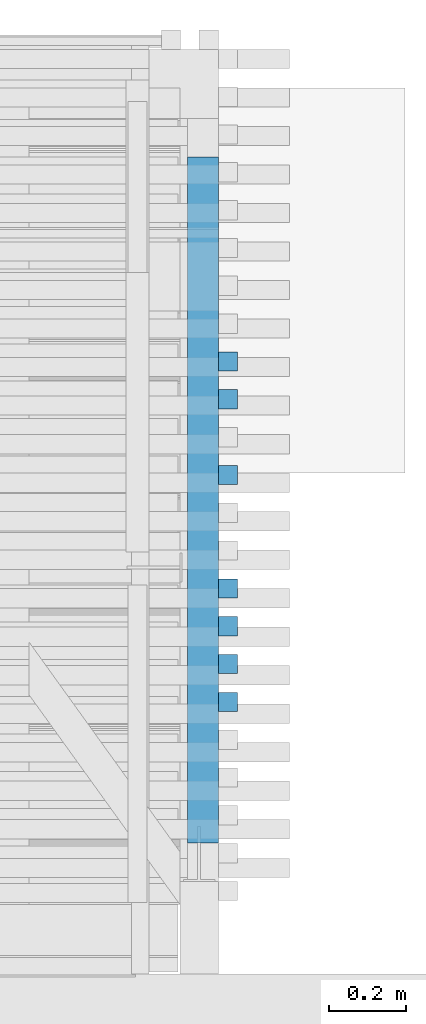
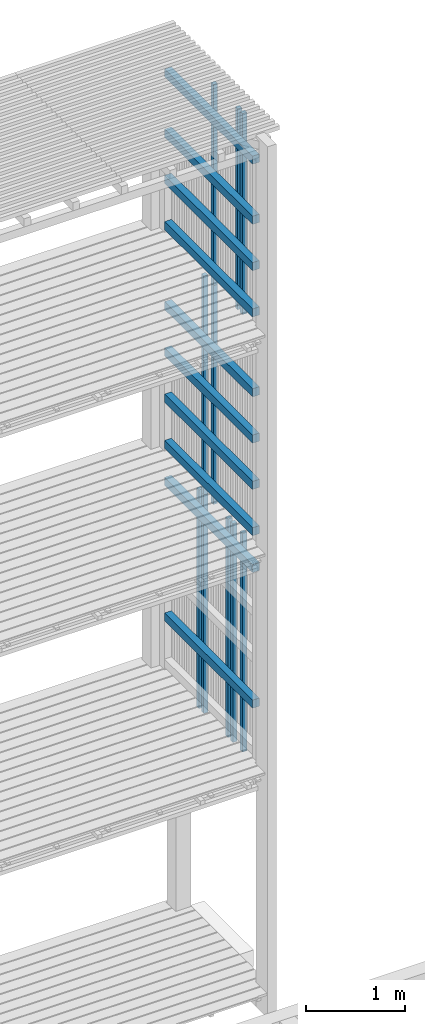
# One storey, part 130 of 182: 20 beams.
"""IFC2X3 building model written with IfcOpenShell, lengths in metres."""

from ifc_helpers import new_model, si_unit, frame, origin, place, context, project, spatial, faceted_brep, element, save


model = new_model("IFC2X3")

# Units and contexts
model_context = context("Model", 3, precision=1e-06, world=origin())
ifc_project = project(units=[si_unit("LENGTHUNIT", "METRE"), si_unit("PLANEANGLEUNIT", "RADIAN")], contexts=[model_context])

# Site, building, storey
site = spatial("IfcSite", under=ifc_project, CompositionType="ELEMENT")
building = spatial("IfcBuilding", under=site, CompositionType="ELEMENT")
storey = spatial("IfcBuildingStorey", under=building, Name="vs", CompositionType="ELEMENT", Elevation=-0.85)

# Beams
placement = place(None, origin())
beam_1_placement = place(placement, frame((56.314999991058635, 5.210077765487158, 6.101249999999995), z_axis=(0.0, 0.0, 1.0), x_axis=(0.0, 1.0, 0.0)))
element("IfcBeam", 1, at=beam_1_placement, inside=storey, Name="Support bardage", context=model_context, shape_type="Brep", body=[
    faceted_brep([(1.779999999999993, -0.039999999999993, 0.050000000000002), (1.779999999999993, -0.039999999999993, -0.05), (1.779999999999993, 0.04000000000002, -0.05), (1.779999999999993, 0.04000000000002, 0.050000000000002), (-4e-15, -0.039999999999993, -0.05), (1.779999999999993, -0.039999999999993, -0.05), (1.779999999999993, -0.039999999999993, 0.050000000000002), (-4e-15, -0.039999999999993, 0.050000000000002), (-4e-15, 0.04000000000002, -0.05), (1.779999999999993, 0.04000000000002, -0.05), (1.779999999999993, -0.039999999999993, -0.05), (-4e-15, -0.039999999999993, -0.05), (-4e-15, 0.04000000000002, 0.050000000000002), (1.779999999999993, 0.04000000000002, 0.050000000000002), (1.779999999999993, 0.04000000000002, -0.05), (-4e-15, 0.04000000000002, -0.05), (-4e-15, -0.039999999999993, 0.050000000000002), (1.779999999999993, -0.039999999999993, 0.050000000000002), (1.779999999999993, 0.04000000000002, 0.050000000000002), (-4e-15, 0.04000000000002, 0.050000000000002), (-4e-15, -0.039999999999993, -0.05), (-4e-15, -0.039999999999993, 0.050000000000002), (-4e-15, 0.04000000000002, 0.050000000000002), (-4e-15, 0.04000000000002, -0.05)], [[[0, 1, 2, 3]], [[4, 5, 6, 7]], [[8, 9, 10, 11]], [[12, 13, 14, 15]], [[16, 17, 18, 19]], [[20, 21, 22, 23]]]),
])
beam_2_placement = place(placement, frame((56.314999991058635, 5.210077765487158, 7.24374999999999), z_axis=(0.0, 0.0, 1.0), x_axis=(0.0, 1.0, 0.0)))
element("IfcBeam", 2, at=beam_2_placement, inside=storey, Name="Support bardage", context=model_context, shape_type="Brep", body=[
    faceted_brep([(1.779999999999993, -0.039999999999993, 0.050000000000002), (1.779999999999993, -0.039999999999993, -0.049999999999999), (1.779999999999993, 0.04000000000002, -0.049999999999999), (1.779999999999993, 0.04000000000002, 0.050000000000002), (-4e-15, -0.039999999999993, -0.049999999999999), (1.779999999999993, -0.039999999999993, -0.049999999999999), (1.779999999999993, -0.039999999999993, 0.050000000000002), (-4e-15, -0.039999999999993, 0.050000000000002), (-4e-15, 0.04000000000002, -0.049999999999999), (1.779999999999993, 0.04000000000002, -0.049999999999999), (1.779999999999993, -0.039999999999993, -0.049999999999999), (-4e-15, -0.039999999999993, -0.049999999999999), (-4e-15, 0.04000000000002, 0.050000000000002), (1.779999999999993, 0.04000000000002, 0.050000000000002), (1.779999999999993, 0.04000000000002, -0.049999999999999), (-4e-15, 0.04000000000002, -0.049999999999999), (-4e-15, -0.039999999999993, 0.050000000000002), (1.779999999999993, -0.039999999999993, 0.050000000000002), (1.779999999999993, 0.04000000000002, 0.050000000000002), (-4e-15, 0.04000000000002, 0.050000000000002), (-4e-15, -0.039999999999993, -0.049999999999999), (-4e-15, -0.039999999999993, 0.050000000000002), (-4e-15, 0.04000000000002, 0.050000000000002), (-4e-15, 0.04000000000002, -0.049999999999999)], [[[0, 1, 2, 3]], [[4, 5, 6, 7]], [[8, 9, 10, 11]], [[12, 13, 14, 15]], [[16, 17, 18, 19]], [[20, 21, 22, 23]]]),
])
beam_3_placement = place(placement, frame((56.37999999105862, 5.575986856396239, 2.575000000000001), z_axis=(-1.0, 0.0, 0.0), x_axis=(0.0, 0.0, 1.0)))
element("IfcBeam", 3, at=beam_3_placement, inside=storey, Name="Bardage", context=model_context, shape_type="Brep", body=[
    faceted_brep([(0.0, -0.025000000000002, 0.024999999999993), (0.0, 0.024999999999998, 0.024999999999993), (0.0, 0.024999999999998, -0.025000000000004), (0.0, -0.025000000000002, -0.025000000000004), (2.699961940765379, 0.025000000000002, -0.025000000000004), (2.699961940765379, 0.025000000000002, 0.024999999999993), (2.699961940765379, -0.025000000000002, 0.024999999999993), (2.699961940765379, -0.025000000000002, -0.025000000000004), (0.0, -0.025000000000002, -0.025000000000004), (0.0, 0.024999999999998, -0.025000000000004), (2.699961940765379, 0.025000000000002, -0.025000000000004), (2.699961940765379, -0.025000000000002, -0.025000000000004), (2.699961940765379, 0.025000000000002, -0.025000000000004), (0.0, 0.024999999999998, -0.025000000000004), (0.0, 0.024999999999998, 0.024999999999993), (2.699961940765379, 0.025000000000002, 0.024999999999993), (2.699961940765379, 0.025000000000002, 0.024999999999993), (0.0, 0.024999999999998, 0.024999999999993), (0.0, -0.025000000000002, 0.024999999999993), (2.699961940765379, -0.025000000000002, 0.024999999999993), (2.699961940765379, -0.025000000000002, 0.024999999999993), (0.0, -0.025000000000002, 0.024999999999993), (0.0, -0.025000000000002, -0.025000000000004), (2.699961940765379, -0.025000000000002, -0.025000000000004)], [[[0, 1, 2, 3]], [[4, 5, 6, 7]], [[8, 9, 10, 11]], [[12, 13, 14, 15]], [[16, 17, 18, 19]], [[20, 21, 22, 23]]]),
])
beam_4_placement = place(placement, frame((56.314999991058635, 5.210077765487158, 8.80124999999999), z_axis=(0.0, 0.0, 1.0), x_axis=(0.0, 1.0, 0.0)))
element("IfcBeam", 4, at=beam_4_placement, inside=storey, Name="Support bardage", context=model_context, shape_type="Brep", body=[
    faceted_brep([(1.779999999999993, -0.039999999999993, 0.050000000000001), (1.779999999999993, -0.039999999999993, -0.050000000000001), (1.779999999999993, 0.04000000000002, -0.050000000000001), (1.779999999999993, 0.04000000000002, 0.050000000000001), (-4e-15, -0.039999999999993, -0.050000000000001), (1.779999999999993, -0.039999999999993, -0.050000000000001), (1.779999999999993, -0.039999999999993, 0.050000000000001), (-4e-15, -0.039999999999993, 0.050000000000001), (-4e-15, 0.04000000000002, -0.050000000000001), (1.779999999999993, 0.04000000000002, -0.050000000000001), (1.779999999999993, -0.039999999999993, -0.050000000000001), (-4e-15, -0.039999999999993, -0.050000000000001), (-4e-15, 0.04000000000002, 0.050000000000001), (1.779999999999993, 0.04000000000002, 0.050000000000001), (1.779999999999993, 0.04000000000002, -0.050000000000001), (-4e-15, 0.04000000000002, -0.050000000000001), (-4e-15, -0.039999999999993, 0.050000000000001), (1.779999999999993, -0.039999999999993, 0.050000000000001), (1.779999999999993, 0.04000000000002, 0.050000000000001), (-4e-15, 0.04000000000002, 0.050000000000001), (-4e-15, -0.039999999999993, -0.050000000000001), (-4e-15, -0.039999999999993, 0.050000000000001), (-4e-15, 0.04000000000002, 0.050000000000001), (-4e-15, 0.04000000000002, -0.050000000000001)], [[[0, 1, 2, 3]], [[4, 5, 6, 7]], [[8, 9, 10, 11]], [[12, 13, 14, 15]], [[16, 17, 18, 19]], [[20, 21, 22, 23]]]),
])
beam_5_placement = place(placement, frame((56.37999999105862, 6.361441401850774, 2.575000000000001), z_axis=(-1.0, 0.0, 0.0), x_axis=(0.0, 0.0, 1.0)))
element("IfcBeam", 5, at=beam_5_placement, inside=storey, Name="Bardage", context=model_context, shape_type="Brep", body=[
    faceted_brep([(0.0, -0.025000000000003, 0.024999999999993), (0.0, 0.024999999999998, 0.024999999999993), (0.0, 0.024999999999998, -0.025000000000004), (0.0, -0.025000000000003, -0.025000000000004), (2.699961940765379, 0.024999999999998, -0.025000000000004), (2.699961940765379, 0.024999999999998, 0.024999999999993), (2.699961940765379, -0.025000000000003, 0.024999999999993), (2.699961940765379, -0.025000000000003, -0.025000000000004), (0.0, -0.025000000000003, -0.025000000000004), (0.0, 0.024999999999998, -0.025000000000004), (2.699961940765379, 0.024999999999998, -0.025000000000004), (2.699961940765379, -0.025000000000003, -0.025000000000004), (2.699961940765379, 0.024999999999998, -0.025000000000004), (0.0, 0.024999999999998, -0.025000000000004), (0.0, 0.024999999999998, 0.024999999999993), (2.699961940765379, 0.024999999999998, 0.024999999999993), (2.699961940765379, 0.024999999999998, 0.024999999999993), (0.0, 0.024999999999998, 0.024999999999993), (0.0, -0.025000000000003, 0.024999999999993), (2.699961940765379, -0.025000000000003, 0.024999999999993), (2.699961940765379, -0.025000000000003, 0.024999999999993), (0.0, -0.025000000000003, 0.024999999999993), (0.0, -0.025000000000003, -0.025000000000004), (2.699961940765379, -0.025000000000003, -0.025000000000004)], [[[0, 1, 2, 3]], [[4, 5, 6, 7]], [[8, 9, 10, 11]], [[12, 13, 14, 15]], [[16, 17, 18, 19]], [[20, 21, 22, 23]]]),
])
beam_6_placement = place(placement, frame((56.37999999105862, 5.772350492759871, 2.575000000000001), z_axis=(-1.0, 0.0, 0.0), x_axis=(0.0, 0.0, 1.0)))
element("IfcBeam", 6, at=beam_6_placement, inside=storey, Name="Bardage", context=model_context, shape_type="Brep", body=[
    faceted_brep([(0.0, -0.024999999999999, 0.024999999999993), (0.0, 0.024999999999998, 0.024999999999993), (0.0, 0.024999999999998, -0.025000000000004), (0.0, -0.024999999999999, -0.025000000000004), (2.699961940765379, 0.025000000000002, -0.025000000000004), (2.699961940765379, 0.025000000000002, 0.024999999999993), (2.699961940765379, -0.024999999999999, 0.024999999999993), (2.699961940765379, -0.024999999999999, -0.025000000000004), (0.0, -0.024999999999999, -0.025000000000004), (0.0, 0.024999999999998, -0.025000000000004), (2.699961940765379, 0.025000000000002, -0.025000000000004), (2.699961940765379, -0.024999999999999, -0.025000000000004), (2.699961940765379, 0.025000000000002, -0.025000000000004), (0.0, 0.024999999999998, -0.025000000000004), (0.0, 0.024999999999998, 0.024999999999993), (2.699961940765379, 0.025000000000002, 0.024999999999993), (2.699961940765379, 0.025000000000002, 0.024999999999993), (0.0, 0.024999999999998, 0.024999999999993), (0.0, -0.024999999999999, 0.024999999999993), (2.699961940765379, -0.024999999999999, 0.024999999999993), (2.699961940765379, -0.024999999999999, 0.024999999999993), (0.0, -0.024999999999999, 0.024999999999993), (0.0, -0.024999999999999, -0.025000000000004), (2.699961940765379, -0.024999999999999, -0.025000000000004)], [[[0, 1, 2, 3]], [[4, 5, 6, 7]], [[8, 9, 10, 11]], [[12, 13, 14, 15]], [[16, 17, 18, 19]], [[20, 21, 22, 23]]]),
])
beam_7_placement = place(placement, frame((56.37999999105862, 6.165077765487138, 5.274999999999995), z_axis=(-1.0, 0.0, 0.0), x_axis=(0.0, 1e-15, 1.0)))
element("IfcBeam", 7, at=beam_7_placement, inside=storey, Name="Bardage", context=model_context, shape_type="Brep", body=[
    faceted_brep([(1e-15, -0.024999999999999, 0.024999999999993), (1e-15, 0.025000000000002, 0.024999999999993), (1e-15, 0.025000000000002, -0.025000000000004), (1e-15, -0.024999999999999, -0.025000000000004), (2.699999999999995, -0.025000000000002, -0.025000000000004), (2.699999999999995, 0.024999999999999, -0.025000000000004), (2.699999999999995, 0.024999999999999, 0.024999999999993), (2.699999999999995, -0.025000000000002, 0.024999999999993), (1e-15, -0.024999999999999, 0.024999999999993), (1e-15, -0.024999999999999, -0.025000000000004), (2.699999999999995, -0.025000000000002, -0.025000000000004), (2.699999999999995, -0.025000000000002, 0.024999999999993), (2.699999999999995, -0.025000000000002, -0.025000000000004), (1e-15, -0.024999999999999, -0.025000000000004), (1e-15, 0.025000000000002, -0.025000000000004), (2.699999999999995, 0.024999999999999, -0.025000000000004), (2.699999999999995, 0.024999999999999, -0.025000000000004), (1e-15, 0.025000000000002, -0.025000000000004), (1e-15, 0.025000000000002, 0.024999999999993), (2.699999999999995, 0.024999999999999, 0.024999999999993), (2.699999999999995, 0.024999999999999, 0.024999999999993), (1e-15, 0.025000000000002, 0.024999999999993), (1e-15, -0.024999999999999, 0.024999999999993), (2.699999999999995, -0.025000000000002, 0.024999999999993)], [[[0, 1, 2, 3]], [[4, 5, 6, 7]], [[8, 9, 10, 11]], [[12, 13, 14, 15]], [[16, 17, 18, 19]], [[20, 21, 22, 23]]]),
])
beam_8_placement = place(placement, frame((56.37999999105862, 6.165077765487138, 7.974999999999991), z_axis=(-1.0, 0.0, 0.0), x_axis=(0.0, 1e-15, 1.0)))
element("IfcBeam", 8, at=beam_8_placement, inside=storey, Name="Bardage", context=model_context, shape_type="Brep", body=[
    faceted_brep([(2.479999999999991, -0.025000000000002, 0.024999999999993), (2.479999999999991, -0.025000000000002, -0.025000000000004), (2.479999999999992, 0.024999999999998, -0.025000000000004), (2.479999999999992, 0.024999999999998, 0.024999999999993), (0.0, 0.025000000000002, 0.024999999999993), (0.0, -0.024999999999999, 0.024999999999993), (2.479999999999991, -0.025000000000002, 0.024999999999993), (2.479999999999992, 0.024999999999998, 0.024999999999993), (0.0, -0.024999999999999, 0.024999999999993), (0.0, 0.025000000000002, 0.024999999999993), (0.0, 0.025000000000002, -0.025000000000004), (0.0, -0.024999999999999, -0.025000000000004), (0.0, 0.025000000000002, -0.025000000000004), (0.0, 0.025000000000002, 0.024999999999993), (2.479999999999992, 0.024999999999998, 0.024999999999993), (2.479999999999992, 0.024999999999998, -0.025000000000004), (0.0, -0.024999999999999, -0.025000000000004), (0.0, 0.025000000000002, -0.025000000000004), (2.479999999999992, 0.024999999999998, -0.025000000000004), (2.479999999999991, -0.025000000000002, -0.025000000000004), (2.479999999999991, -0.025000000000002, 0.024999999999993), (0.0, -0.024999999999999, 0.024999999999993), (0.0, -0.024999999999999, -0.025000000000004), (2.479999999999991, -0.025000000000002, -0.025000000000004)], [[[0, 1, 2, 3]], [[4, 5, 6, 7]], [[8, 9, 10, 11]], [[12, 13, 14, 15]], [[16, 17, 18, 19]], [[20, 21, 22, 23]]]),
])
beam_9_placement = place(placement, frame((56.314999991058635, 5.210077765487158, 3.401250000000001), z_axis=(0.0, 0.0, 1.0), x_axis=(0.0, 1.0, 0.0)))
element("IfcBeam", 9, at=beam_9_placement, inside=storey, Name="Support bardage", context=model_context, shape_type="Brep", body=[
    faceted_brep([(1.779999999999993, -0.039999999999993, 0.05), (1.779999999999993, -0.039999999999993, -0.050000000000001), (1.779999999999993, 0.04000000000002, -0.050000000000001), (1.779999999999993, 0.04000000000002, 0.05), (-4e-15, -0.039999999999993, -0.050000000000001), (1.779999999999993, -0.039999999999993, -0.050000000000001), (1.779999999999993, -0.039999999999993, 0.05), (-4e-15, -0.039999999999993, 0.05), (-4e-15, 0.04000000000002, -0.050000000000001), (1.779999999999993, 0.04000000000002, -0.050000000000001), (1.779999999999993, -0.039999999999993, -0.050000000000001), (-4e-15, -0.039999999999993, -0.050000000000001), (-4e-15, 0.04000000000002, 0.05), (1.779999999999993, 0.04000000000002, 0.05), (1.779999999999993, 0.04000000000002, -0.050000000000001), (-4e-15, 0.04000000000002, -0.050000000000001), (-4e-15, -0.039999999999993, 0.05), (1.779999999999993, -0.039999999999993, 0.05), (1.779999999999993, 0.04000000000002, 0.05), (-4e-15, 0.04000000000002, 0.05), (-4e-15, -0.039999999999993, -0.050000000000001), (-4e-15, -0.039999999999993, 0.05), (-4e-15, 0.04000000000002, 0.05), (-4e-15, 0.04000000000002, -0.050000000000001)], [[[0, 1, 2, 3]], [[4, 5, 6, 7]], [[8, 9, 10, 11]], [[12, 13, 14, 15]], [[16, 17, 18, 19]], [[20, 21, 22, 23]]]),
])
beam_10_placement = place(placement, frame((56.314999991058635, 5.210077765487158, 5.074999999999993), z_axis=(0.0, 0.0, 1.0), x_axis=(0.0, 1.0, 0.0)))
element("IfcBeam", 10, at=beam_10_placement, inside=storey, Name="Support bardage", context=model_context, shape_type="Brep", body=[
    faceted_brep([(1.779999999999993, -0.039999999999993, 0.050000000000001), (1.779999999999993, -0.039999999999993, -0.050000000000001), (1.779999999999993, 0.04000000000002, -0.050000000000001), (1.779999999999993, 0.04000000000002, 0.050000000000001), (-4e-15, -0.039999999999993, -0.050000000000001), (1.779999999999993, -0.039999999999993, -0.050000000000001), (1.779999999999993, -0.039999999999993, 0.050000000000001), (-4e-15, -0.039999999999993, 0.050000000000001), (-4e-15, 0.04000000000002, -0.050000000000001), (1.779999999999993, 0.04000000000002, -0.050000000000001), (1.779999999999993, -0.039999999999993, -0.050000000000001), (-4e-15, -0.039999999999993, -0.050000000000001), (-4e-15, 0.04000000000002, 0.050000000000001), (1.779999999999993, 0.04000000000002, 0.050000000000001), (1.779999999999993, 0.04000000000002, -0.050000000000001), (-4e-15, 0.04000000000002, -0.050000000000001), (-4e-15, -0.039999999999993, 0.050000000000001), (1.779999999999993, -0.039999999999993, 0.050000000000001), (1.779999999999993, 0.04000000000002, 0.050000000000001), (-4e-15, 0.04000000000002, 0.050000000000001), (-4e-15, -0.039999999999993, -0.050000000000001), (-4e-15, -0.039999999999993, 0.050000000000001), (-4e-15, 0.04000000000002, 0.050000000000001), (-4e-15, 0.04000000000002, -0.050000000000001)], [[[0, 1, 2, 3]], [[4, 5, 6, 7]], [[8, 9, 10, 11]], [[12, 13, 14, 15]], [[16, 17, 18, 19]], [[20, 21, 22, 23]]]),
])
beam_11_placement = place(placement, frame((56.37999999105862, 6.459623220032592, 2.575000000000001), z_axis=(-1.0, 0.0, 0.0), x_axis=(0.0, 0.0, 1.0)))
element("IfcBeam", 11, at=beam_11_placement, inside=storey, Name="Bardage", context=model_context, shape_type="Brep", body=[
    faceted_brep([(0.0, -0.025000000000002, 0.024999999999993), (0.0, 0.024999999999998, 0.024999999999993), (0.0, 0.024999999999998, -0.025000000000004), (0.0, -0.025000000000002, -0.025000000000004), (2.699961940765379, 0.024999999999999, -0.025000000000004), (2.699961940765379, 0.024999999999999, 0.024999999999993), (2.699961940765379, -0.025000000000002, 0.024999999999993), (2.699961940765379, -0.025000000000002, -0.025000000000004), (0.0, -0.025000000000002, -0.025000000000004), (0.0, 0.024999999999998, -0.025000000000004), (2.699961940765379, 0.024999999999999, -0.025000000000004), (2.699961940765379, -0.025000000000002, -0.025000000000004), (2.699961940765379, 0.024999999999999, -0.025000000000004), (0.0, 0.024999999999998, -0.025000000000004), (0.0, 0.024999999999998, 0.024999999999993), (2.699961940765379, 0.024999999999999, 0.024999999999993), (2.699961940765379, 0.024999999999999, 0.024999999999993), (0.0, 0.024999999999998, 0.024999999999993), (0.0, -0.025000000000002, 0.024999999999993), (2.699961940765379, -0.025000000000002, 0.024999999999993), (2.699961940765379, -0.025000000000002, 0.024999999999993), (0.0, -0.025000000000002, 0.024999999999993), (0.0, -0.025000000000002, -0.025000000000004), (2.699961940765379, -0.025000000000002, -0.025000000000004)], [[[0, 1, 2, 3]], [[4, 5, 6, 7]], [[8, 9, 10, 11]], [[12, 13, 14, 15]], [[16, 17, 18, 19]], [[20, 21, 22, 23]]]),
])
beam_12_placement = place(placement, frame((56.37999999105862, 5.870532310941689, 2.575000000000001), z_axis=(-1.0, 0.0, 0.0), x_axis=(0.0, 0.0, 1.0)))
element("IfcBeam", 12, at=beam_12_placement, inside=storey, Name="Bardage", context=model_context, shape_type="Brep", body=[
    faceted_brep([(0.0, -0.025000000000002, 0.024999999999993), (0.0, 0.025000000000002, 0.024999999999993), (0.0, 0.025000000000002, -0.025000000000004), (0.0, -0.025000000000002, -0.025000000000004), (2.699961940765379, 0.025000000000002, -0.025000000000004), (2.699961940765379, 0.025000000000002, 0.024999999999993), (2.699961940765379, -0.025000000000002, 0.024999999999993), (2.699961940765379, -0.025000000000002, -0.025000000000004), (0.0, -0.025000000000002, -0.025000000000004), (0.0, 0.025000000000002, -0.025000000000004), (2.699961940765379, 0.025000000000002, -0.025000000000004), (2.699961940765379, -0.025000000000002, -0.025000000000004), (2.699961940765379, 0.025000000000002, -0.025000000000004), (0.0, 0.025000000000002, -0.025000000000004), (0.0, 0.025000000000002, 0.024999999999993), (2.699961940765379, 0.025000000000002, 0.024999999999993), (2.699961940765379, 0.025000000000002, 0.024999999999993), (0.0, 0.025000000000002, 0.024999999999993), (0.0, -0.025000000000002, 0.024999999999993), (2.699961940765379, -0.025000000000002, 0.024999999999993), (2.699961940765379, -0.025000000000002, 0.024999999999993), (0.0, -0.025000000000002, 0.024999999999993), (0.0, -0.025000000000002, -0.025000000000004), (2.699961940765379, -0.025000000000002, -0.025000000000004)], [[[0, 1, 2, 3]], [[4, 5, 6, 7]], [[8, 9, 10, 11]], [[12, 13, 14, 15]], [[16, 17, 18, 19]], [[20, 21, 22, 23]]]),
])
beam_13_placement = place(placement, frame((56.37999999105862, 5.575986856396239, 7.974999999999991), z_axis=(-1.0, 0.0, 0.0), x_axis=(0.0, 0.0, 1.0)))
element("IfcBeam", 13, at=beam_13_placement, inside=storey, Name="Bardage", context=model_context, shape_type="Brep", body=[
    faceted_brep([(2.479999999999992, -0.025000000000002, 0.024999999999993), (2.479999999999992, -0.025000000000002, -0.025000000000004), (2.479999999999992, 0.024999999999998, -0.025000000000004), (2.479999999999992, 0.024999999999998, 0.024999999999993), (0.0, 0.024999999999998, 0.024999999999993), (0.0, -0.025000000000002, 0.024999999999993), (2.479999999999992, -0.025000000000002, 0.024999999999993), (2.479999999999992, 0.024999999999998, 0.024999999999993), (0.0, -0.025000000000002, 0.024999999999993), (0.0, 0.024999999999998, 0.024999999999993), (0.0, 0.024999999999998, -0.025000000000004), (0.0, -0.025000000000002, -0.025000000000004), (0.0, 0.024999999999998, -0.025000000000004), (0.0, 0.024999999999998, 0.024999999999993), (2.479999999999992, 0.024999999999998, 0.024999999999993), (2.479999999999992, 0.024999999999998, -0.025000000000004), (0.0, -0.025000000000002, -0.025000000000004), (0.0, 0.024999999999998, -0.025000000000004), (2.479999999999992, 0.024999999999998, -0.025000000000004), (2.479999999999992, -0.025000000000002, -0.025000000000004), (2.479999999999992, -0.025000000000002, 0.024999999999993), (0.0, -0.025000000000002, 0.024999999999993), (0.0, -0.025000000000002, -0.025000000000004), (2.479999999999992, -0.025000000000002, -0.025000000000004)], [[[0, 1, 2, 3]], [[4, 5, 6, 7]], [[8, 9, 10, 11]], [[12, 13, 14, 15]], [[16, 17, 18, 19]], [[20, 21, 22, 23]]]),
])
beam_14_placement = place(placement, frame((56.314999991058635, 5.210077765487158, 8.229999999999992), z_axis=(0.0, 0.0, 1.0), x_axis=(0.0, 1.0, 0.0)))
element("IfcBeam", 14, at=beam_14_placement, inside=storey, Name="Support bardage", context=model_context, shape_type="Brep", body=[
    faceted_brep([(1.779999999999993, -0.039999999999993, 0.050000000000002), (1.779999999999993, -0.039999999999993, -0.05), (1.779999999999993, 0.04000000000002, -0.05), (1.779999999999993, 0.04000000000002, 0.050000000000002), (-4e-15, -0.039999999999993, -0.05), (1.779999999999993, -0.039999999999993, -0.05), (1.779999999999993, -0.039999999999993, 0.050000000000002), (-4e-15, -0.039999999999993, 0.050000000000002), (-4e-15, 0.04000000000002, -0.05), (1.779999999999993, 0.04000000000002, -0.05), (1.779999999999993, -0.039999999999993, -0.05), (-4e-15, -0.039999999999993, -0.05), (-4e-15, 0.04000000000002, 0.050000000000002), (1.779999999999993, 0.04000000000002, 0.050000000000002), (1.779999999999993, 0.04000000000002, -0.05), (-4e-15, 0.04000000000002, -0.05), (-4e-15, -0.039999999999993, 0.050000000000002), (1.779999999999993, -0.039999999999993, 0.050000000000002), (1.779999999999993, 0.04000000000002, 0.050000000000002), (-4e-15, 0.04000000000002, 0.050000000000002), (-4e-15, -0.039999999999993, -0.05), (-4e-15, -0.039999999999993, 0.050000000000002), (-4e-15, 0.04000000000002, 0.050000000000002), (-4e-15, 0.04000000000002, -0.05)], [[[0, 1, 2, 3]], [[4, 5, 6, 7]], [[8, 9, 10, 11]], [[12, 13, 14, 15]], [[16, 17, 18, 19]], [[20, 21, 22, 23]]]),
])
beam_15_placement = place(placement, frame((56.37999999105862, 6.361441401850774, 5.274999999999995), z_axis=(-1.0, 0.0, 0.0), x_axis=(0.0, 0.0, 1.0)))
element("IfcBeam", 15, at=beam_15_placement, inside=storey, Name="Bardage", context=model_context, shape_type="Brep", body=[
    faceted_brep([(1e-15, -0.025000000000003, 0.024999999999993), (1e-15, 0.024999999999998, 0.024999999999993), (1e-15, 0.024999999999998, -0.025000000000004), (1e-15, -0.025000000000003, -0.025000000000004), (2.699999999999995, -0.025000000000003, -0.025000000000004), (2.699999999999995, 0.024999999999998, -0.025000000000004), (2.699999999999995, 0.024999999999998, 0.024999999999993), (2.699999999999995, -0.025000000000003, 0.024999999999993), (1e-15, -0.025000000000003, 0.024999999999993), (1e-15, -0.025000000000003, -0.025000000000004), (2.699999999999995, -0.025000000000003, -0.025000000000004), (2.699999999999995, -0.025000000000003, 0.024999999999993), (2.699999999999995, -0.025000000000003, -0.025000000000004), (1e-15, -0.025000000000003, -0.025000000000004), (1e-15, 0.024999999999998, -0.025000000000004), (2.699999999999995, 0.024999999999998, -0.025000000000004), (2.699999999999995, 0.024999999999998, -0.025000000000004), (1e-15, 0.024999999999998, -0.025000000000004), (1e-15, 0.024999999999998, 0.024999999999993), (2.699999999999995, 0.024999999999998, 0.024999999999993), (2.699999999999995, 0.024999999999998, 0.024999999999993), (1e-15, 0.024999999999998, 0.024999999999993), (1e-15, -0.025000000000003, 0.024999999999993), (2.699999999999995, -0.025000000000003, 0.024999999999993)], [[[0, 1, 2, 3]], [[4, 5, 6, 7]], [[8, 9, 10, 11]], [[12, 13, 14, 15]], [[16, 17, 18, 19]], [[20, 21, 22, 23]]]),
])
beam_16_placement = place(placement, frame((56.314999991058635, 5.210077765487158, 5.529999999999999), z_axis=(0.0, 0.0, 1.0), x_axis=(0.0, 1.0, 0.0)))
element("IfcBeam", 16, at=beam_16_placement, inside=storey, Name="Support bardage", context=model_context, shape_type="Brep", body=[
    faceted_brep([(1.779999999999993, -0.039999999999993, 0.05), (1.779999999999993, -0.039999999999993, -0.050000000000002), (1.779999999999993, 0.04000000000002, -0.050000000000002), (1.779999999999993, 0.04000000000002, 0.05), (-4e-15, -0.039999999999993, -0.050000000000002), (1.779999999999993, -0.039999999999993, -0.050000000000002), (1.779999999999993, -0.039999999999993, 0.05), (-4e-15, -0.039999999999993, 0.05), (-4e-15, 0.04000000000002, -0.050000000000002), (1.779999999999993, 0.04000000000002, -0.050000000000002), (1.779999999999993, -0.039999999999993, -0.050000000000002), (-4e-15, -0.039999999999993, -0.050000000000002), (-4e-15, 0.04000000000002, 0.05), (1.779999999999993, 0.04000000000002, 0.05), (1.779999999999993, 0.04000000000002, -0.050000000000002), (-4e-15, 0.04000000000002, -0.050000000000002), (-4e-15, -0.039999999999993, 0.05), (1.779999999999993, -0.039999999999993, 0.05), (1.779999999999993, 0.04000000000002, 0.05), (-4e-15, 0.04000000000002, 0.05), (-4e-15, -0.039999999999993, -0.050000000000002), (-4e-15, -0.039999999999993, 0.05), (-4e-15, 0.04000000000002, 0.05), (-4e-15, 0.04000000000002, -0.050000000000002)], [[[0, 1, 2, 3]], [[4, 5, 6, 7]], [[8, 9, 10, 11]], [[12, 13, 14, 15]], [[16, 17, 18, 19]], [[20, 21, 22, 23]]]),
])
beam_17_placement = place(placement, frame((56.37999999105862, 5.674168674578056, 7.974999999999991), z_axis=(-1.0, 0.0, 0.0), x_axis=(0.0, 0.0, 1.0)))
element("IfcBeam", 17, at=beam_17_placement, inside=storey, Name="Bardage", context=model_context, shape_type="Brep", body=[
    faceted_brep([(2.479999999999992, -0.025000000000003, 0.024999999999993), (2.479999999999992, -0.025000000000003, -0.025000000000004), (2.479999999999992, 0.024999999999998, -0.025000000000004), (2.479999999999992, 0.024999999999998, 0.024999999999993), (0.0, 0.024999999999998, 0.024999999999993), (0.0, -0.025000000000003, 0.024999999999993), (2.479999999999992, -0.025000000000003, 0.024999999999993), (2.479999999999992, 0.024999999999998, 0.024999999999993), (0.0, -0.025000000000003, 0.024999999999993), (0.0, 0.024999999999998, 0.024999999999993), (0.0, 0.024999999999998, -0.025000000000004), (0.0, -0.025000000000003, -0.025000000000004), (0.0, 0.024999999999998, -0.025000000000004), (0.0, 0.024999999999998, 0.024999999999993), (2.479999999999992, 0.024999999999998, 0.024999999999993), (2.479999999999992, 0.024999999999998, -0.025000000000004), (0.0, -0.025000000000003, -0.025000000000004), (0.0, 0.024999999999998, -0.025000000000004), (2.479999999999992, 0.024999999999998, -0.025000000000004), (2.479999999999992, -0.025000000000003, -0.025000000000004), (2.479999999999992, -0.025000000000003, 0.024999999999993), (0.0, -0.025000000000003, 0.024999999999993), (0.0, -0.025000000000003, -0.025000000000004), (2.479999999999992, -0.025000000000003, -0.025000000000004)], [[[0, 1, 2, 3]], [[4, 5, 6, 7]], [[8, 9, 10, 11]], [[12, 13, 14, 15]], [[16, 17, 18, 19]], [[20, 21, 22, 23]]]),
])
beam_18_placement = place(placement, frame((56.314999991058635, 5.210077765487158, 10.114999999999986), z_axis=(0.0, 0.0, 1.0), x_axis=(0.0, 1.0, 0.0)))
element("IfcBeam", 18, at=beam_18_placement, inside=storey, Name="Support bardage", context=model_context, shape_type="Brep", body=[
    faceted_brep([(1.779999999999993, -0.039999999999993, 0.050000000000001), (1.779999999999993, -0.039999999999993, -0.050000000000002), (1.779999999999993, 0.04000000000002, -0.050000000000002), (1.779999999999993, 0.04000000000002, 0.050000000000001), (-4e-15, -0.039999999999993, -0.050000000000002), (1.779999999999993, -0.039999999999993, -0.050000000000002), (1.779999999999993, -0.039999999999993, 0.050000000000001), (-4e-15, -0.039999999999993, 0.050000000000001), (-4e-15, 0.04000000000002, -0.050000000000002), (1.779999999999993, 0.04000000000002, -0.050000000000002), (1.779999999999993, -0.039999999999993, -0.050000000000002), (-4e-15, -0.039999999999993, -0.050000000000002), (-4e-15, 0.04000000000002, 0.050000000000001), (1.779999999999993, 0.04000000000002, 0.050000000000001), (1.779999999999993, 0.04000000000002, -0.050000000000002), (-4e-15, 0.04000000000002, -0.050000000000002), (-4e-15, -0.039999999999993, 0.050000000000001), (1.779999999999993, -0.039999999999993, 0.050000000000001), (1.779999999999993, 0.04000000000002, 0.050000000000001), (-4e-15, 0.04000000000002, 0.050000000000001), (-4e-15, -0.039999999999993, -0.050000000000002), (-4e-15, -0.039999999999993, 0.050000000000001), (-4e-15, 0.04000000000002, 0.050000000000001), (-4e-15, 0.04000000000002, -0.050000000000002)], [[[0, 1, 2, 3]], [[4, 5, 6, 7]], [[8, 9, 10, 11]], [[12, 13, 14, 15]], [[16, 17, 18, 19]], [[20, 21, 22, 23]]]),
])
beam_19_placement = place(placement, frame((56.314999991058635, 5.210077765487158, 6.672499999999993), z_axis=(0.0, 0.0, 1.0), x_axis=(0.0, 1.0, 0.0)))
element("IfcBeam", 19, at=beam_19_placement, inside=storey, Name="Support bardage", context=model_context, shape_type="Brep", body=[
    faceted_brep([(1.779999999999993, -0.039999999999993, 0.050000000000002), (1.779999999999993, -0.039999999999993, -0.05), (1.779999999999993, 0.04000000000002, -0.05), (1.779999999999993, 0.04000000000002, 0.050000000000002), (-4e-15, -0.039999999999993, -0.05), (1.779999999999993, -0.039999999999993, -0.05), (1.779999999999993, -0.039999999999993, 0.050000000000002), (-4e-15, -0.039999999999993, 0.050000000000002), (-4e-15, 0.04000000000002, -0.05), (1.779999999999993, 0.04000000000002, -0.05), (1.779999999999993, -0.039999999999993, -0.05), (-4e-15, -0.039999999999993, -0.05), (-4e-15, 0.04000000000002, 0.050000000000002), (1.779999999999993, 0.04000000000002, 0.050000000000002), (1.779999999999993, 0.04000000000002, -0.05), (-4e-15, 0.04000000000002, -0.05), (-4e-15, -0.039999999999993, 0.050000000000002), (1.779999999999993, -0.039999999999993, 0.050000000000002), (1.779999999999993, 0.04000000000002, 0.050000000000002), (-4e-15, 0.04000000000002, 0.050000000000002), (-4e-15, -0.039999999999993, -0.05), (-4e-15, -0.039999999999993, 0.050000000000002), (-4e-15, 0.04000000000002, 0.050000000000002), (-4e-15, 0.04000000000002, -0.05)], [[[0, 1, 2, 3]], [[4, 5, 6, 7]], [[8, 9, 10, 11]], [[12, 13, 14, 15]], [[16, 17, 18, 19]], [[20, 21, 22, 23]]]),
])
beam_20_placement = place(placement, frame((56.314999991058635, 5.210077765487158, 9.37249999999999), z_axis=(0.0, 0.0, 1.0), x_axis=(0.0, 1.0, 0.0)))
element("IfcBeam", 20, at=beam_20_placement, inside=storey, Name="Support bardage", context=model_context, shape_type="Brep", body=[
    faceted_brep([(1.779999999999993, -0.039999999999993, 0.050000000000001), (1.779999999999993, -0.039999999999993, -0.050000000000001), (1.779999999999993, 0.04000000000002, -0.050000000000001), (1.779999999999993, 0.04000000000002, 0.050000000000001), (-4e-15, -0.039999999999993, -0.050000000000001), (1.779999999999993, -0.039999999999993, -0.050000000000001), (1.779999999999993, -0.039999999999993, 0.050000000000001), (-4e-15, -0.039999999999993, 0.050000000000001), (-4e-15, 0.04000000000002, -0.050000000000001), (1.779999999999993, 0.04000000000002, -0.050000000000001), (1.779999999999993, -0.039999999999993, -0.050000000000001), (-4e-15, -0.039999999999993, -0.050000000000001), (-4e-15, 0.04000000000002, 0.050000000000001), (1.779999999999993, 0.04000000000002, 0.050000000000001), (1.779999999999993, 0.04000000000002, -0.050000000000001), (-4e-15, 0.04000000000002, -0.050000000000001), (-4e-15, -0.039999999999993, 0.050000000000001), (1.779999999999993, -0.039999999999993, 0.050000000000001), (1.779999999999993, 0.04000000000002, 0.050000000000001), (-4e-15, 0.04000000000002, 0.050000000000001), (-4e-15, -0.039999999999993, -0.050000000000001), (-4e-15, -0.039999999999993, 0.050000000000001), (-4e-15, 0.04000000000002, 0.050000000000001), (-4e-15, 0.04000000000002, -0.050000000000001)], [[[0, 1, 2, 3]], [[4, 5, 6, 7]], [[8, 9, 10, 11]], [[12, 13, 14, 15]], [[16, 17, 18, 19]], [[20, 21, 22, 23]]]),
])

save(model, "model.ifc")
